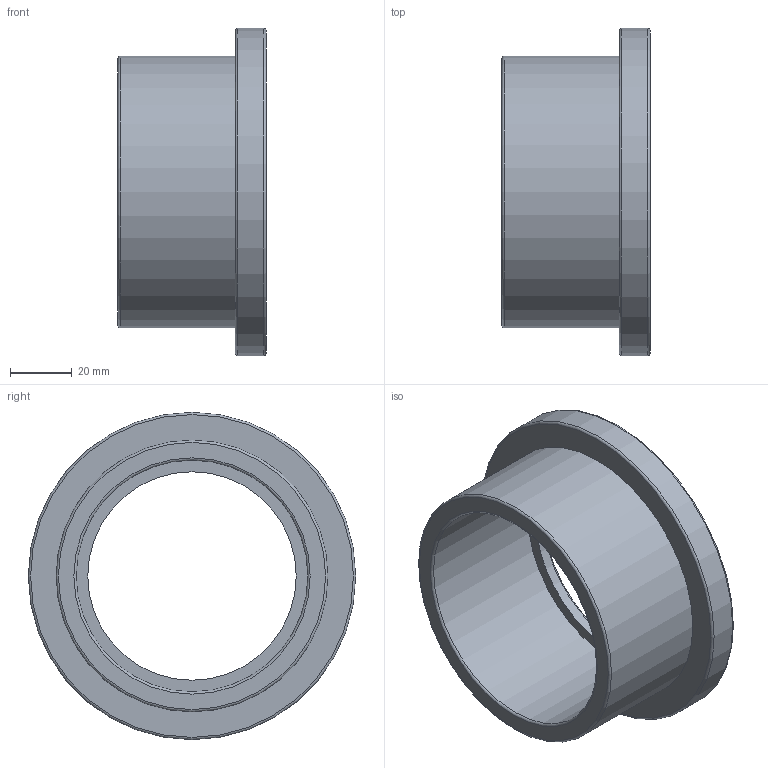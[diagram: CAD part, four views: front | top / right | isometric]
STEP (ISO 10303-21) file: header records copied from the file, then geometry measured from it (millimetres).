
FILE_DESCRIPTION(/* description */ ('PLASSON FLANGE FLAT AD.-CEM 75'),/* implementation_level */ '2;1');
FILE_NAME(/* name */ 'C:\Dropbox\KIMPROJECTS-Inventor\99-16-3568-Processing\PVC Catalog 2017\26_09_18\055100\055100075.ipt.stp',/* time_stamp */ '2018-09-27T11:50:50+03:00',/* author */ ('KIM'),/* organization */ (''),/* preprocessor_version */ 'ST-DEVELOPER v15.6',/* originating_system */ 'Autodesk Inventor 2015',/* authorisation */ '');
FILE_SCHEMA (('AUTOMOTIVE_DESIGN { 1 0 10303 214 3 1 1 }'));
Length unit declared in the file: millimetre
Products named in the file (1): 055100075
Bounding box: 48 x 106 x 106 mm (x, y, z)
Volume: 110500.4 mm3; surface area: 35095.8 mm2
Topology: 1 solids, 1 shells, 13 faces, 22 edges, 13 vertices
Faces by surface type: torus 5, cylinder 4, plane 4
Full cylindrical faces by diameter (mm): 67.5 x1, 75 x1, 88 x1, 106 x1
Entity records: 292 total; most frequent: DIRECTION 54, CARTESIAN_POINT 40, AXIS2_PLACEMENT_3D 27, EDGE_LOOP 26, ORIENTED_EDGE 26, FACE_BOUND 13, FACE_OUTER_BOUND 13, CIRCLE 13
